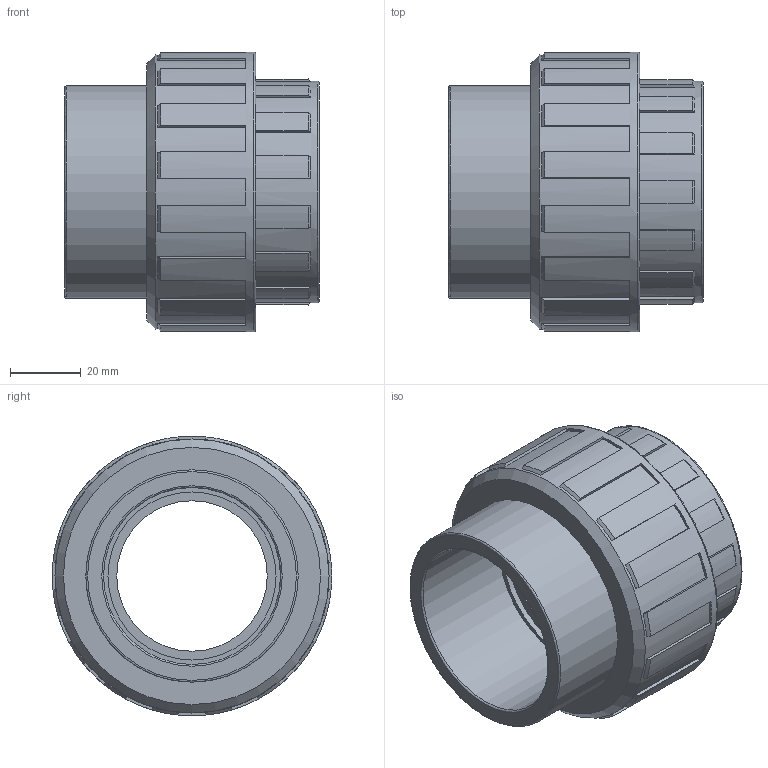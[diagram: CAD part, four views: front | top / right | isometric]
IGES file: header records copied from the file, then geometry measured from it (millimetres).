
Global section: file name: 050802050015.ipt; native system: Autodesk Inventor 2015; preprocessor: unknown; author: KIM; date: 20171207.164952; units: millimetre
Bounding box: 72 x 79 x 79 mm (x, y, z)
Volume: 145388.7 mm3; surface area: 33313.7 mm2
Topology: 1 solids, 1 shells, 141 faces, 414 edges, 280 vertices
Faces by surface type: plane 83, cone 31, cylinder 18, revolution 9
Full cylindrical faces by diameter (mm): 60 x1, 62.5 x1, 77.42 x1, 79 x1
